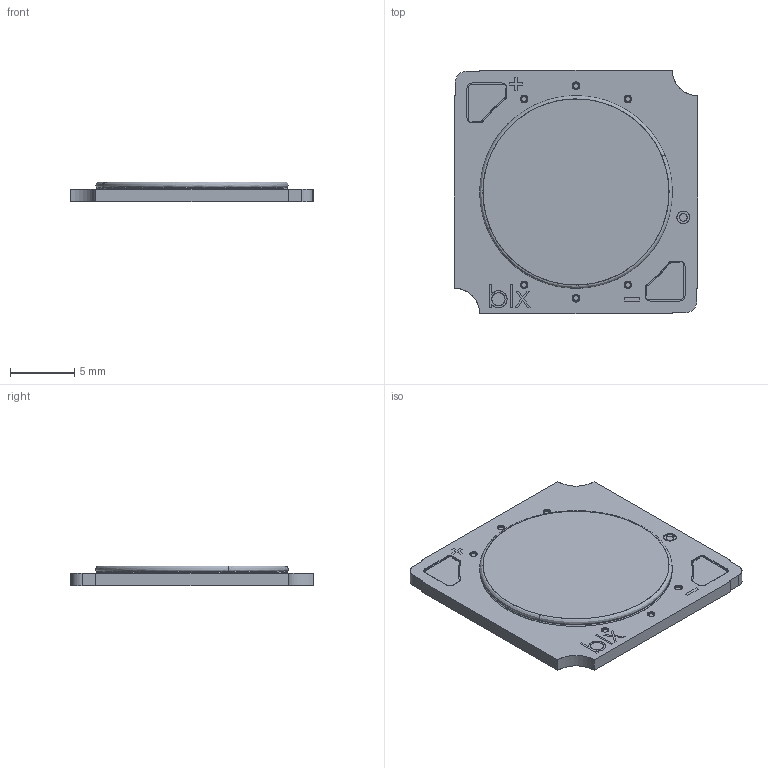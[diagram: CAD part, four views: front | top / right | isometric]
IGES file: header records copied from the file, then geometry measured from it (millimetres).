
Start section: SolidWorks IGES file using analytic representation for surfaces
Global section: file name: D:\Users\5160206\Desktop\3D document\Vesta\NTW&DW Series\DW GEN3\DW13 GEN3\DW13 GEN3 Assemble.IGS; native system: SolidWorks 2018; preprocessor: SolidWorks 2018; author: 5160206; date: 250225.133740; units: millimetre
Bounding box: 19 x 19 x 1.55 mm (x, y, z)
Surface area: 808.5 mm2 (no closed solid volume)
Topology: 0 solids, 0 shells, 164 faces, 1478 edges, 1478 vertices
Faces by surface type: bspline 112, revolution 52
